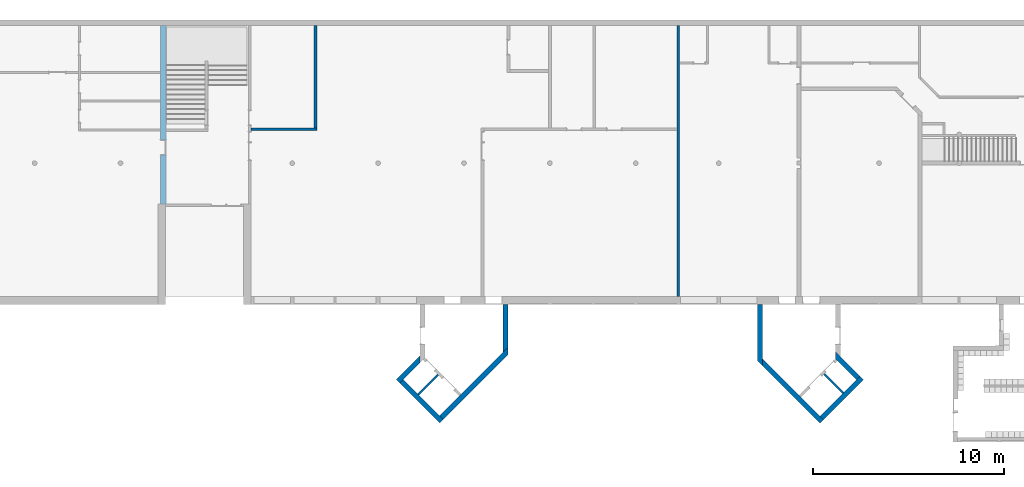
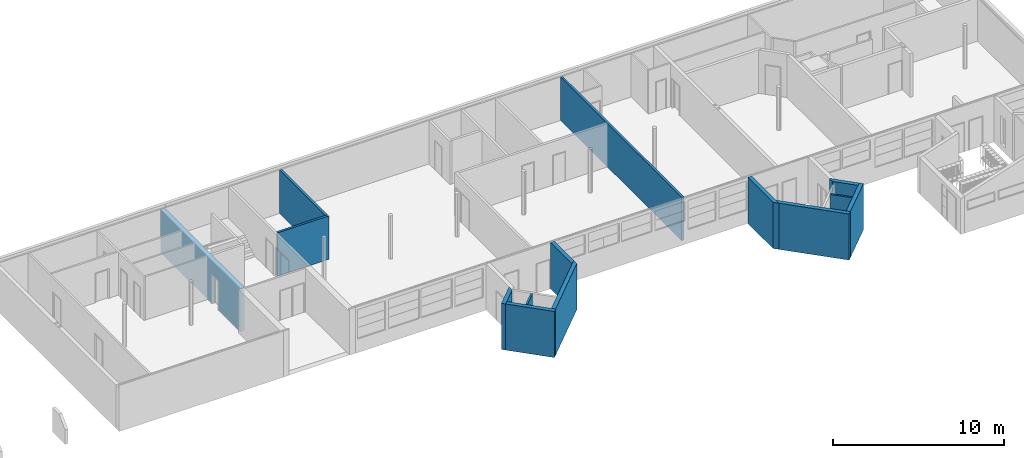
# One storey, part 15 of 25: 13 walls, 1 opening, plus 1 element that does not belong to this part.
"""IFC2X3 building model written with IfcOpenShell, lengths in millimetres."""

from ifc_helpers import new_model, entity, si_unit, converted_unit, derived_unit, money_unit, direction, frame, origin_with_axes, place, context, subcontext, project, spatial, faceted_brep, material, type_object, element, save


model = new_model("IFC2X3")

# Units and contexts
model_context = context("Model", 3, precision=0.01, world=origin_with_axes(), true_north=direction((0.0, 1.0)))
body_context = subcontext(model_context, "Body", "Model", "MODEL_VIEW")
ifc_project = project(units=[si_unit("LENGTHUNIT", "METRE", prefix="MILLI"), si_unit("AREAUNIT", "SQUARE_METRE"), si_unit("VOLUMEUNIT", "CUBIC_METRE"), converted_unit("PLANEANGLEUNIT", "DEGREE", entity("IfcPlaneAngleMeasure", 0.0174532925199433), si_unit("PLANEANGLEUNIT", "RADIAN"), dimensions=[0, 0, 0, 0, 0, 0, 0]), money_unit("USD"), converted_unit("TIMEUNIT", "Year", entity("IfcTimeMeasure", 31557600.0), si_unit("TIMEUNIT", "SECOND"), dimensions=[0, 0, 1, 0, 0, 0, 0]), si_unit("MASSUNIT", "GRAM", prefix="KILO"), si_unit("THERMODYNAMICTEMPERATUREUNIT", "DEGREE_CELSIUS"), si_unit("LUMINOUSINTENSITYUNIT", "LUMEN"), si_unit("ENERGYUNIT", "JOULE", prefix="MEGA"), derived_unit("THERMALCONDUCTANCEUNIT", [(si_unit("POWERUNIT", "WATT"), 1), (si_unit("LENGTHUNIT", "METRE"), -1), (si_unit("THERMODYNAMICTEMPERATUREUNIT", "KELVIN"), -1)]), derived_unit("SPECIFICHEATCAPACITYUNIT", [(si_unit("ENERGYUNIT", "JOULE"), 1), (si_unit("MASSUNIT", "GRAM", prefix="KILO"), -1), (si_unit("THERMODYNAMICTEMPERATUREUNIT", "KELVIN"), -1)]), derived_unit("MASSDENSITYUNIT", [(si_unit("MASSUNIT", "GRAM", prefix="KILO"), 1), (si_unit("VOLUMEUNIT", "CUBIC_METRE"), -1)])], contexts=[model_context])

# Site, building, storey
site_placement = place(None, origin_with_axes())
site = spatial("IfcSite", under=ifc_project, at=site_placement, Name="Site", CompositionType="ELEMENT")
building_placement = place(site_placement, origin_with_axes())
building = spatial("IfcBuilding", under=site, at=building_placement, Name="Building", CompositionType="ELEMENT")
storey_placement = place(building_placement, origin_with_axes())
storey = spatial("IfcBuildingStorey", under=building, at=storey_placement, Name="U ETG", CompositionType="ELEMENT", Elevation=0.0)

# Walls
ifc_material_1 = material(Name="GENERIC - STRUCTURAL")
wall_type_1 = type_object("IfcWallType", Name="GENERIC - STRUCTURAL 260", PredefinedType="NOTDEFINED")
wall_1_placement = place(storey_placement, frame((33949.5323964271, 4299.999999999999, 0.0), z_axis=(0.0, 0.0, 1.0), x_axis=(-0.7071067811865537, -0.7071067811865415, 0.0)))
element("IfcWall", 1, at=wall_1_placement, inside=storey, type_object=wall_type_1, material=ifc_material_1, Name="SW - 001", context=body_context, shape_type="Brep", body=[
    faceted_brep([(107.6955262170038, -259.999999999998, 3300.0), (367.6955262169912, 0.0, 3300.0), (367.6955262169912, 0.0, 0.0), (107.6955262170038, -259.999999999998, 0.0), (1860.000000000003, 0.0, 3300.0), (1860.0, -259.9999999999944, 3300.0), (1860.000000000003, 0.0, 0.0), (1860.0, -259.9999999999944, 0.0)], [[[0, 1, 2, 3]], [[4, 1, 0, 5]], [[6, 2, 1, 4]], [[7, 3, 2, 6]], [[0, 3, 7, 5]], [[7, 6, 4, 5]]]),
])
wall_2_placement = place(storey_placement, frame((32818.16154652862, 3168.62915010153, 0.0), z_axis=(0.0, 0.0, 1.0), x_axis=(0.70710678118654, -0.7071067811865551, 0.0)))
element("IfcWall", 2, at=wall_2_placement, inside=storey, type_object=wall_type_1, material=ifc_material_1, Name="SW - 001", context=body_context, shape_type="Brep", body=[
    faceted_brep([(2960.000000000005, -259.999999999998, 3300.0), (2960.000000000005, 0.0, 3300.0), (0.0, 0.0, 3300.0), (0.0, -259.999999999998, 3300.0), (2960.000000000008, -259.999999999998, 0.0), (2960.000000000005, 0.0, 0.0), (0.0, 0.0, 0.0), (0.0, -259.999999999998, 0.0)], [[[0, 1, 2, 3]], [[1, 0, 4, 5]], [[1, 5, 6, 2]], [[7, 3, 2, 6]], [[4, 0, 3, 7]], [[5, 4, 7, 6]]]),
])
wall_3_placement = place(storey_placement, frame((34727.34985573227, 1259.440840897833, 0.0), z_axis=(0.0, 0.0, 1.0), x_axis=(0.7071067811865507, 0.7071067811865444, 0.0)))
element("IfcWall", 3, at=wall_3_placement, inside=storey, type_object=wall_type_1, material=ifc_material_1, Name="SW - 001", context=body_context, shape_type="Brep", body=[
    faceted_brep([(4807.69552621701, -259.999999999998, 3300.0), (5067.695526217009, 0.0, 3300.0), (0.0, 0.0, 3300.0), (0.0, -259.999999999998, 3300.0), (4807.69552621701, -259.999999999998, 0.0), (5067.695526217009, 0.0, 0.0), (0.0, 0.0, 0.0), (0.0, -259.999999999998, 0.0)], [[[0, 1, 2, 3]], [[1, 0, 4, 5]], [[1, 5, 6, 2]], [[7, 3, 2, 6]], [[4, 0, 3, 7]], [[5, 4, 7, 6]]]),
])
wall_4_placement = place(storey_placement, frame((38050.75172730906, 4582.842712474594, 0.0), z_axis=(0.0, 0.0, 1.0), x_axis=(0.0, 1.0, 0.0)))
element("IfcWall", 4, at=wall_4_placement, inside=storey, type_object=wall_type_1, material=ifc_material_1, Name="SW - 001", context=body_context, shape_type="Brep", body=[
    faceted_brep([(2516.728216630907, -259.999999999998, 3300.0), (2516.728216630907, 0.0, 3300.0), (0.0, 0.0, 3300.0), (259.9999999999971, -259.999999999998, 3300.0), (2516.728216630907, -259.999999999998, 0.0), (2516.728216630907, 0.0, 0.0), (0.0, 0.0, 0.0), (259.9999999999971, -259.999999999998, 0.0)], [[[0, 1, 2, 3]], [[1, 0, 4, 5]], [[1, 5, 6, 2]], [[7, 3, 2, 6]], [[4, 0, 3, 7]], [[5, 4, 7, 6]]]),
])
wall_5_placement = place(storey_placement, frame((51649.99999999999, 7499.570929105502, 0.0), z_axis=(0.0, 0.0, 1.0), x_axis=(0.0, -1.0, 0.0)))
element("IfcWall", 5, at=wall_5_placement, inside=storey, type_object=wall_type_1, material=ifc_material_1, Name="SW - 001", context=body_context, shape_type="Brep", body=[
    faceted_brep([(3357.695526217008, -259.999999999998, 3300.0), (3617.695526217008, 0.0, 3300.0), (400.0000000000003, 0.0, 3300.0), (400.0000000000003, -259.999999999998, 3300.0), (3357.695526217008, -259.999999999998, 0.0), (3617.695526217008, 0.0, 0.0), (400.0000000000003, 0.0, 0.0), (400.0000000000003, -259.999999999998, 0.0)], [[[0, 1, 2, 3]], [[1, 0, 4, 5]], [[1, 5, 6, 2]], [[7, 3, 2, 6]], [[4, 0, 3, 7]], [[5, 4, 7, 6]]]),
])
wall_6_placement = place(storey_placement, frame((51649.99999999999, 4249.570929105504, 0.0), z_axis=(0.0, 0.0, 1.0), x_axis=(0.7071067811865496, -0.7071067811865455, 0.0)))
element("IfcWall", 6, at=wall_6_placement, inside=storey, type_object=wall_type_1, material=ifc_material_1, Name="SW - 001", context=body_context, shape_type="Brep", body=[
    faceted_brep([(4510.000000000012, -260.0000000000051, 3300.0), (4510.000000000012, 0.0, 3300.0), (0.0, 0.0, 3300.0), (260.0000000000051, -259.999999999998, 3300.0), (4510.000000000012, -260.0000000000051, 0.0), (4510.000000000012, 0.0, 0.0), (0.0, 0.0, 0.0), (260.0000000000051, -259.999999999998, 0.0)], [[[0, 1, 2, 3]], [[1, 0, 4, 5]], [[1, 5, 6, 2]], [[7, 3, 2, 6]], [[4, 0, 3, 7]], [[5, 4, 7, 6]]]),
])
wall_7_placement = place(storey_placement, frame((54655.20382004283, 1244.367109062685, 0.0), z_axis=(0.0, 0.0, 1.0), x_axis=(0.7071067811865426, 0.7071067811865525, 0.0)))
element("IfcWall", 7, at=wall_7_placement, inside=storey, type_object=wall_type_1, material=ifc_material_1, Name="SW - 001", context=body_context, shape_type="Brep", body=[
    faceted_brep([(2959.623270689, -259.999999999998, 3300.0), (2959.623270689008, 0.0, 3300.0), (0.0, 0.0, 3300.0), (0.0, -260.0000000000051, 3300.0), (2959.623270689, -259.999999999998, 0.0), (2959.623270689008, 0.0, 0.0), (0.0, 0.0, 0.0), (0.0, -260.0000000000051, 0.0)], [[[0, 1, 2, 3]], [[1, 0, 4, 5]], [[1, 5, 6, 2]], [[7, 3, 2, 6]], [[4, 0, 3, 7]], [[5, 4, 7, 6]]]),
])
wall_8_placement = place(storey_placement, frame((56564.12574139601, 3153.289030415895, 0.0), z_axis=(0.0, 0.0, 1.0), x_axis=(-0.7071067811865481, 0.7071067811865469, 0.0)))
element("IfcWall", 8, at=wall_8_placement, inside=storey, type_object=wall_type_1, material=ifc_material_1, Name="SW - 001", context=body_context, shape_type="Brep", body=[
    faceted_brep([(0.0, -260.0000000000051, 3300.0), (0.0, -260.0000000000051, 0.0), (1810.376729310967, -260.0000000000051, 0.0), (1810.376729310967, -260.0000000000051, 3300.0), (0.0, 0.0, 0.0), (0.0, 0.0, 3300.0), (1550.376729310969, 0.0, 0.0), (1550.376729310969, 0.0, 3300.0)], [[[0, 1, 2, 3]], [[4, 1, 0, 5]], [[1, 4, 6, 2]], [[6, 7, 3, 2]], [[5, 0, 3, 7]], [[5, 7, 6, 4]]]),
])

# Wall, opening
ifc_material_2 = material(Name="GENERIC - INTERNAL FILLER")
wall_type_2 = type_object("IfcWallType", Name="GENERIC - INTERNAL FILLER 280", PredefinedType="NOTDEFINED")
wall_9_placement = place(storey_placement, frame((20100.00000000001, 21700.0, 0.0), z_axis=(0.0, 0.0, 1.0), x_axis=(0.0, -1.0, 0.0)))
wall_9 = element("IfcWall", 9, at=wall_9_placement, inside=storey, type_object=wall_type_2, material=ifc_material_2, Name="SW - 001", context=body_context, shape_type="Brep", body=[
    faceted_brep([(6776.690382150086, 279.9999999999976, 0.0), (6776.690382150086, 280.0000000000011, 2100.0), (5976.690382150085, 280.0000000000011, 2100.0), (5976.690382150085, 279.9999999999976, 0.0), (0.0, 280.0000000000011, 0.0), (0.0, 280.0000000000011, 3100.0), (9350.429070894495, 279.9999999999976, 3100.0), (9350.429070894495, 279.9999999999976, 0.0), (6776.690382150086, 0.0, 0.0), (6776.690382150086, 0.0, 2100.0), (5976.690382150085, 0.0, 2100.0), (5976.690382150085, 0.0, 0.0), (0.0, 0.0, 0.0), (0.0, 0.0, 3100.0), (9350.429070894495, 0.0, 3100.0), (9350.429070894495, 0.0, 0.0)], [[[0, 1, 2, 3, 4, 5, 6, 7]], [[1, 0, 8, 9]], [[2, 1, 9, 10]], [[3, 2, 10, 11]], [[3, 11, 12, 4]], [[5, 4, 12, 13]], [[14, 6, 5, 13]], [[15, 7, 6, 14]], [[8, 0, 7, 15]], [[9, 8, 15, 14, 13, 12, 11, 10]]]),
])
opening_placement = place(wall_9_placement, frame((6376.690382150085, 0.0, 0.0), z_axis=(0.0, 0.0, 1.0), x_axis=(1.0, 0.0, 0.0)))
element("IfcOpeningElement", 10, at=opening_placement, cuts=wall_9, Name="DOO - 002", context=body_context, shape_type="Brep", body=[
    faceted_brep([(-400.0000000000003, 281.0000000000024, 0.0), (-400.0000000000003, 281.0000000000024, 2100.0), (400.0000000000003, 281.0000000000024, 2100.0), (400.0000000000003, 281.0000000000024, 0.0), (-436.9999999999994, 281.0000000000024, 0.0), (-436.9999999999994, 281.0000000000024, 2137.0), (436.9999999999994, 281.0000000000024, 2137.0), (436.9999999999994, 281.0000000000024, 0.0), (-400.0000000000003, 280.0000000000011, 0.0), (400.0000000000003, 280.0000000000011, 0.0), (400.0000000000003, 0.0, 0.0), (400.0000000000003, -1.000000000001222, 0.0), (-400.0000000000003, -1.000000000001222, 0.0), (-400.0000000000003, 0.0, 0.0), (-436.9999999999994, 280.0000000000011, 0.0), (-436.9999999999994, 280.0000000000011, 2137.0), (436.9999999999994, 280.0000000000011, 2137.0), (436.9999999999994, 280.0000000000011, 0.0), (400.0000000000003, 280.0000000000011, 2100.0), (400.0000000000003, 0.0, 2100.0), (436.9999999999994, 0.0, 0.0), (436.9999999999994, -1.000000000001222, 0.0), (436.9999999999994, -1.000000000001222, 2137.0), (-436.9999999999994, -1.000000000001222, 2137.0), (-436.9999999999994, -1.000000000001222, 0.0), (-436.9999999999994, 0.0, 0.0), (-400.0000000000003, 280.0000000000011, 2100.0), (-400.0000000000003, 0.0, 2100.0), (-436.9999999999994, 0.0, 2137.0), (436.9999999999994, 0.0, 2137.0)], [[[0, 1, 2, 3]], [[2, 1, 0, 4, 5, 6, 7, 3]], [[8, 0, 3, 9, 10, 11, 12, 13]], [[0, 8, 14, 4]], [[14, 15, 5, 4]], [[15, 16, 6, 5]], [[16, 17, 7, 6]], [[9, 3, 7, 17]], [[9, 18, 19, 10]], [[11, 10, 20, 21]], [[12, 11, 21, 22, 23, 24]], [[13, 12, 24, 25]], [[26, 8, 13, 27]], [[8, 26, 18, 9, 17, 16, 15, 14]], [[18, 26, 27, 19]], [[19, 27, 13, 25, 28, 29, 20, 10]], [[20, 29, 22, 21]], [[29, 28, 23, 22]], [[28, 25, 24, 23]]]),
])

# Walls
wall_type_3 = type_object("IfcWallType", Name="GENERIC - INTERNAL FILLER 150", PredefinedType="NOTDEFINED")
wall_10_placement = place(storey_placement, frame((24849.99999999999, 16350.0, 0.0), z_axis=(0.0, 0.0, 1.0), x_axis=(1.0, 0.0, 0.0)))
element("IfcWall", 11, at=wall_10_placement, inside=storey, type_object=wall_type_3, material=ifc_material_2, Name="SW - 001", context=body_context, shape_type="Brep", body=[
    faceted_brep([(3449.999999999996, -149.9999999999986, 3100.0), (3449.999999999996, 0.0, 3100.0), (0.0, 0.0, 3100.0), (0.0, -149.9999999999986, 3100.0), (3449.999999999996, -149.9999999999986, 0.0), (3449.999999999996, 0.0, 0.0), (0.0, 0.0, 0.0), (0.0, -149.9999999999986, 0.0)], [[[0, 1, 2, 3]], [[1, 0, 4, 5]], [[1, 5, 6, 2]], [[7, 3, 2, 6]], [[4, 0, 3, 7]], [[5, 4, 7, 6]]]),
])
wall_11_placement = place(storey_placement, frame((28149.99999999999, 16350.0, 0.0), z_axis=(0.0, 0.0, 1.0), x_axis=(0.0, 1.0, 0.0)))
element("IfcWall", 12, at=wall_11_placement, inside=storey, type_object=wall_type_3, material=ifc_material_2, Name="SW - 001", context=body_context, shape_type="Brep", body=[
    faceted_brep([(5350.000000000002, -149.9999999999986, 3100.0), (5350.000000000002, 0.0, 3100.0), (0.0, 0.0, 3100.0), (0.0, -149.9999999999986, 3100.0), (5350.000000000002, -149.9999999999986, 0.0), (5350.000000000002, 0.0, 0.0), (0.0, 0.0, 0.0), (0.0, -149.9999999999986, 0.0)], [[[0, 1, 2, 3]], [[1, 0, 4, 5]], [[1, 5, 6, 2]], [[7, 3, 2, 6]], [[4, 0, 3, 7]], [[5, 4, 7, 6]]]),
])
wall_12_placement = place(storey_placement, frame((47150.35609034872, 21700.0, 0.0), z_axis=(0.0, 0.0, 1.0), x_axis=(0.0, -1.0, 0.0)))
element("IfcWall", 13, at=wall_12_placement, inside=storey, type_object=wall_type_3, material=ifc_material_2, Name="SW - 001", context=body_context, shape_type="Brep", body=[
    faceted_brep([(14200.4290708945, 149.9999999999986, 0.0), (14200.4290708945, 0.0, 0.0), (0.0, 0.0, 0.0), (0.0, 149.9999999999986, 0.0), (14200.4290708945, 149.9999999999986, 3100.0), (14200.4290708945, 0.0, 3100.0), (0.0, 0.0, 3100.0), (0.0, 149.9999999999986, 3100.0)], [[[0, 1, 2, 3]], [[1, 0, 4, 5]], [[1, 5, 6, 2]], [[7, 3, 2, 6]], [[4, 0, 3, 7]], [[5, 4, 7, 6]]]),
])
wall_type_4 = type_object("IfcWallType", Name="GENERIC - INTERNAL FILLER 120", PredefinedType="NOTDEFINED")
wall_13_placement = place(storey_placement, frame((33653.01261343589, 2333.778083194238, 0.0), z_axis=(0.0, 0.0, 1.0), x_axis=(0.7071067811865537, 0.7071067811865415, 0.0)))
element("IfcWall", 14, at=wall_13_placement, inside=storey, type_object=wall_type_4, material=ifc_material_2, Name="SW - 001", context=body_context, shape_type="Brep", body=[
    faceted_brep([(1450.000000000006, 120.000000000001, 0.0), (1450.00000000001, 0.0, 0.0), (0.0, 0.0, 0.0), (0.0, 120.000000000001, 0.0), (1450.000000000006, 120.000000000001, 3100.0), (1450.00000000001, 0.0, 3100.0), (0.0, 0.0, 3100.0), (0.0, 120.000000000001, 3100.0)], [[[0, 1, 2, 3]], [[1, 0, 4, 5]], [[1, 5, 6, 2]], [[7, 3, 2, 6]], [[4, 0, 3, 7]], [[5, 4, 7, 6]]]),
])
wall_14_placement = place(storey_placement, frame((55913.8537873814, 2503.017076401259, 0.0), z_axis=(0.0, 0.0, 1.0), x_axis=(-0.7071067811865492, 0.7071067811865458, 0.0)))
element("IfcWall", 15, at=wall_14_placement, inside=storey, type_object=wall_type_4, material=ifc_material_2, Name="SW - 001", context=body_context, shape_type="Brep", body=[
    faceted_brep([(1400.376729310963, 119.9999999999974, 0.0), (1400.376729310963, 0.0, 0.0), (0.0, 0.0, 0.0), (0.0, 119.9999999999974, 0.0), (1400.376729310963, 119.9999999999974, 3100.0), (1400.376729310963, 0.0, 3100.0), (0.0, 0.0, 3100.0), (0.0, 119.9999999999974, 3100.0)], [[[0, 1, 2, 3]], [[1, 0, 4, 5]], [[1, 5, 6, 2]], [[7, 3, 2, 6]], [[4, 0, 3, 7]], [[5, 4, 7, 6]]]),
])

save(model, "model.ifc")
